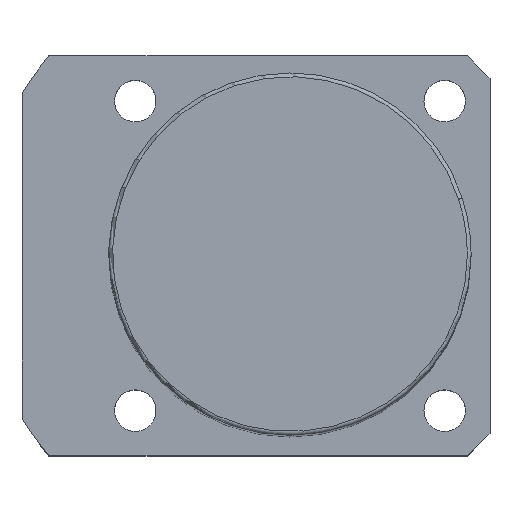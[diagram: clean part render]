
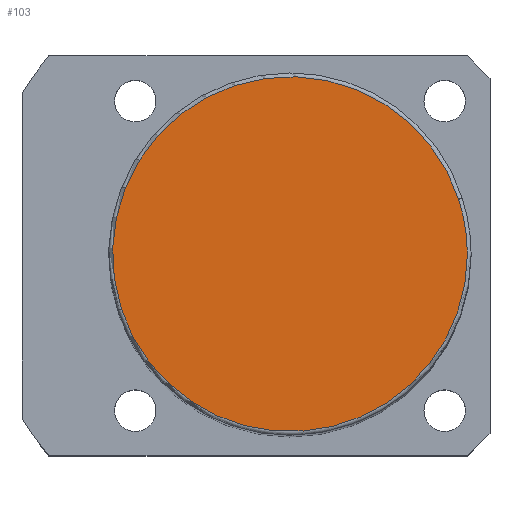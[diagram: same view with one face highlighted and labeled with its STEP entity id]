
A CAD part, top view. The second image highlights one B-rep face of the part: STEP entity #103.
In plain terms, the highlighted planar face has unit normal (0, 0, 1).
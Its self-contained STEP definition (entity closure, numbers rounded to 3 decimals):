
#16=CARTESIAN_POINT('',(-22.35,-7.262,144.0));
#17=VERTEX_POINT('',#16);
#54=CARTESIAN_POINT('',(22.35,7.262,144.0));
#55=VERTEX_POINT('',#54);
#63=CARTESIAN_POINT('',(23.5,0.0,144.0));
#64=VERTEX_POINT('',#63);
#65=CARTESIAN_POINT('',(0.0,0.0,144.0));
#66=DIRECTION('',(0.0,0.0,1.0));
#67=DIRECTION('',(1.0,0.0,0.0));
#68=AXIS2_PLACEMENT_3D('',#65,#66,#67);
#69=CIRCLE('',#68,23.5);
#70=EDGE_CURVE('no 898',#64,#55,#69,.T.);
#72=CARTESIAN_POINT('',(0.0,0.0,144.0));
#73=DIRECTION('',(0.0,0.0,1.0));
#74=DIRECTION('',(1.0,0.0,0.0));
#75=AXIS2_PLACEMENT_3D('',#72,#73,#74);
#76=CIRCLE('',#75,23.5);
#77=EDGE_CURVE('no 902',#17,#64,#76,.T.);
#87=ORIENTED_EDGE('',*,*,#70,.T.);
#88=CARTESIAN_POINT('',(0.0,0.0,144.0));
#89=DIRECTION('',(0.0,0.0,1.0));
#90=DIRECTION('',(1.0,0.0,0.0));
#91=AXIS2_PLACEMENT_3D('',#88,#89,#90);
#92=CIRCLE('',#91,23.5);
#93=EDGE_CURVE('no 911',#55,#17,#92,.T.);
#94=ORIENTED_EDGE('',*,*,#93,.T.);
#95=ORIENTED_EDGE('',*,*,#77,.T.);
#96=EDGE_LOOP('',(#87,#94,#95));
#97=FACE_OUTER_BOUND('',#96,.T.);
#98=CARTESIAN_POINT('',(0.0,0.0,144.0));
#99=DIRECTION('',(0.0,0.0,1.0));
#100=DIRECTION('',(1.0,0.0,0.0));
#101=AXIS2_PLACEMENT_3D('',#98,#99,#100);
#102=PLANE('',#101);
#103=ADVANCED_FACE('no 904',(#97),#102,.T.);
